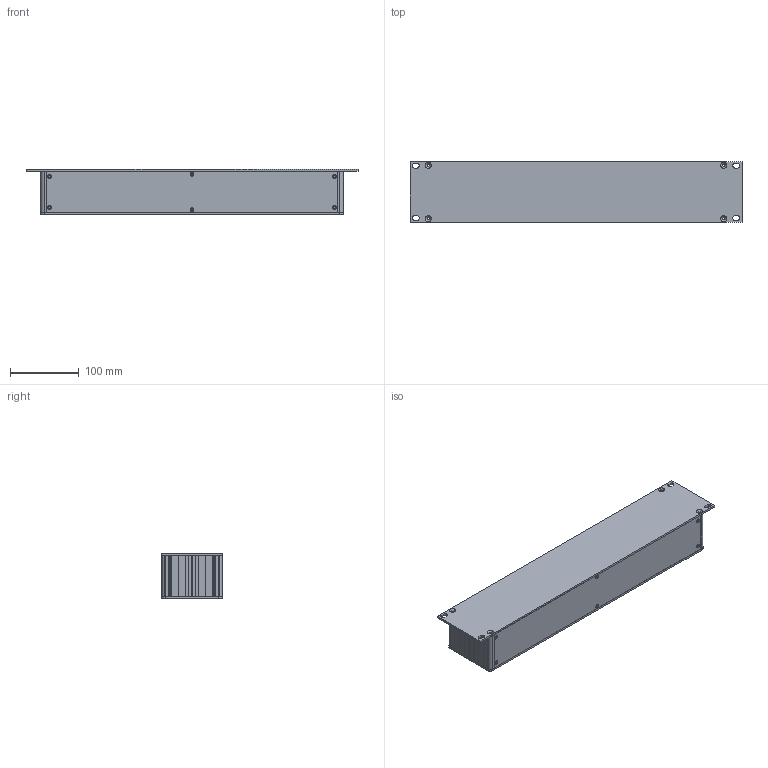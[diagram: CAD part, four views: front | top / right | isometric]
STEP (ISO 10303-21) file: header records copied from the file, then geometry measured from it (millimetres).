
FILE_DESCRIPTION (( 'STEP AP203' ), '1' );
FILE_NAME ('RM-120-6.STEP', '2022-09-26T06:50:11', ( '' ), ( '' ), 'SwSTEP 2.0', 'SolidWorks 2021', '' );
FILE_SCHEMA (( 'CONFIG_CONTROL_DESIGN' ));
Length unit declared in the file: millimetre
Products named in the file (5): AP-220_14 cm; RM-120-6; 2U_on_panel; ust_alt_panel_6 cm; 2U_arka_panel
Assembly tree (6 placements, depth 2):
  RM-120-6
    2U_on_panel
    AP-220_14 cm  x2
    2U_arka_panel
    ust_alt_panel_6 cm  x2
Bounding box: 482.6 x 88.1 x 66 mm (x, y, z)
Volume: 372146.3 mm3; surface area: 343089.6 mm2
Topology: 6 solids, 6 shells, 948 faces, 2784 edges, 1848 vertices
Faces by surface type: plane 560, cylinder 348, cone 40
Entity records: 18053 total; most frequent: CARTESIAN_POINT 3117, ORIENTED_EDGE 3060, DIRECTION 3016, EDGE_CURVE 1530, VECTOR 1090, LINE 1090, VERTEX_POINT 1016, AXIS2_PLACEMENT_3D 963
